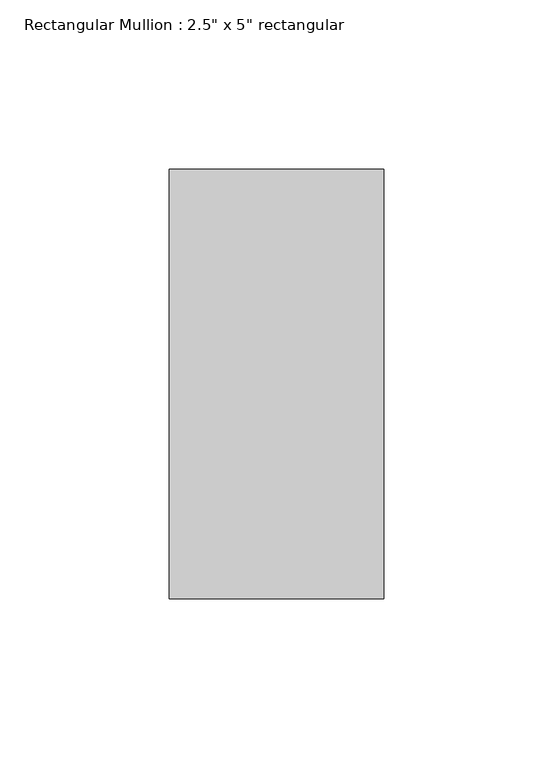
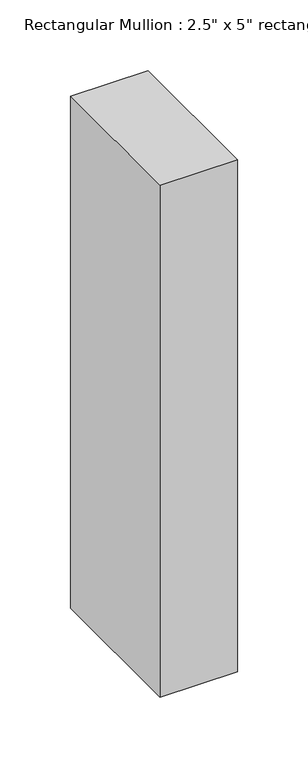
"""IFC4 building model written with IfcOpenShell, lengths in millimetres: member geometry."""

import ifcopenshell
import ifcopenshell.guid

model = None  # the IFC model being written
_history = None  # IfcOwnerHistory: only IFC2X3 demands one
_inside = {}  # id of a spatial element -> (the spatial element, [elements in it])
_under = {}  # id of a project, library or spatial element -> (it, [spatial elements below it])
_declared = {}  # id of a project -> (the project, [libraries it declares])
_typed = {}  # id of a type object -> (the type object, [elements of that type])
_made_of = {}  # id of a material, layer set ... -> (it, [elements and type objects made of it])


def new_model(schema):
    """Start an empty IFC model of exactly this schema.

    Asked for "IFC4X3", IfcOpenShell would pick the latest addendum, in which some entities
    have other attributes; the version numbers below select the first issue.
    IFC2X3 requires an IfcOwnerHistory on every rooted entity: one is made here for all.
    """
    global model, _history
    if schema == "IFC4X3":
        model = ifcopenshell.file(schema_version=(4, 3, 0, 0))
    else:
        model = ifcopenshell.file(schema=schema)
    _inside.clear()
    _under.clear()
    _declared.clear()
    _typed.clear()
    _made_of.clear()
    _history = None
    if model.schema == "IFC2X3":
        org = make("IfcOrganization", Name="unknown")
        user = make(
            "IfcPersonAndOrganization",
            ThePerson=make("IfcPerson", FamilyName="unknown"),
            TheOrganization=org,
        )
        app = make(
            "IfcApplication",
            ApplicationDeveloper=org,
            Version="unknown",
            ApplicationFullName="unknown",
            ApplicationIdentifier="unknown",
        )
        _history = make(
            "IfcOwnerHistory",
            OwningUser=user,
            OwningApplication=app,
            ChangeAction="ADDED",
            CreationDate=0,
        )
    return model


def make(cls, **values):
    """One entity of the class cls with the attributes given. An attribute that is None is left unset."""
    return model.create_entity(
        cls, **{name: value for name, value in values.items() if value is not None}
    )


def rooted(cls, **values):
    """An entity with a GlobalId (a new one), such as an element, a storey or a relation."""
    return make(cls, GlobalId=ifcopenshell.guid.new(), OwnerHistory=_history, **values)


def si_unit(unit_type, name, prefix=None):
    """IfcSIUnit, for example si_unit("LENGTHUNIT", "METRE", prefix="MILLI")."""
    return make("IfcSIUnit", UnitType=unit_type, Prefix=prefix, Name=name)


def assignment(units):
    """IfcUnitAssignment: the units of a project."""
    return None if units is None else make("IfcUnitAssignment", Units=units)


def point(xyz):
    """IfcCartesianPoint."""
    return None if xyz is None else make("IfcCartesianPoint", Coordinates=xyz)


def direction(xyz):
    """IfcDirection."""
    return None if xyz is None else make("IfcDirection", DirectionRatios=xyz)


def frame(location, z_axis=None, x_axis=None):
    """IfcAxis2Placement3D, a coordinate frame: its origin and axes. An axis left out is left unset."""
    return make(
        "IfcAxis2Placement3D",
        Location=point(location),
        Axis=direction(z_axis),
        RefDirection=direction(x_axis),
    )


def origin():
    """The frame at (0, 0, 0) with its axes left unset."""
    return frame((0.0, 0.0, 0.0))


def place(relative_to, where):
    """IfcLocalPlacement: puts the frame where relative to a parent placement (None: the world)."""
    return make(
        "IfcLocalPlacement", PlacementRelTo=relative_to, RelativePlacement=where
    )


def context(
    kind, dimensions, precision=None, world=None, true_north=None, identifier=None
):
    """IfcGeometricRepresentationContext, for example the 3D "Model" context."""
    return make(
        "IfcGeometricRepresentationContext",
        ContextIdentifier=identifier,
        ContextType=kind,
        CoordinateSpaceDimension=dimensions,
        Precision=precision,
        WorldCoordinateSystem=world,
        TrueNorth=true_north,
    )


def project(units=None, contexts=None):
    """IfcProject with its units and contexts."""
    return rooted(
        "IfcProject",
        Name="project",
        RepresentationContexts=contexts,
        UnitsInContext=assignment(units),
    )


def spatial(cls, under=None, at=None, **own):
    """A site, building, storey or space (cls), placed at a placement, below another one or the project."""
    s = rooted(cls, ObjectPlacement=at, **own)
    if under is not None:
        _under.setdefault(under.id(), (under, []))[1].append(s)
    return s


def polyline(points):
    """IfcPolyline through the points."""
    return make("IfcPolyline", Points=[point(p) for p in points])


def outline(outer, holes=None, kind="AREA"):
    """IfcArbitraryClosedProfileDef: a profile drawn as a closed curve; with holes, ...WithVoids."""
    if holes is None:
        return make("IfcArbitraryClosedProfileDef", ProfileType=kind, OuterCurve=outer)
    return make(
        "IfcArbitraryProfileDefWithVoids",
        ProfileType=kind,
        OuterCurve=outer,
        InnerCurves=holes,
    )


def extrude(swept, where, along, depth):
    """IfcExtrudedAreaSolid: the profile swept, set in the frame where, extruded along a direction by depth."""
    return make(
        "IfcExtrudedAreaSolid",
        SweptArea=swept,
        Position=where,
        ExtrudedDirection=direction(along),
        Depth=depth,
    )


def shape(context_of_items, identifier, shape_type, items):
    """IfcShapeRepresentation: the items that make up one representation, for example the "Body"."""
    return make(
        "IfcShapeRepresentation",
        ContextOfItems=context_of_items,
        RepresentationIdentifier=identifier,
        RepresentationType=shape_type,
        Items=items,
    )


def source(mapping_origin, context_of_items, identifier, shape_type, items):
    """IfcRepresentationMap: a shape defined once, which mapped items show again and again."""
    return make(
        "IfcRepresentationMap",
        MappingOrigin=mapping_origin,
        MappedRepresentation=shape(context_of_items, identifier, shape_type, items),
    )


def transform(
    local_origin,
    x_axis=None,
    y_axis=None,
    z_axis=None,
    scale=None,
    scale2=None,
    scale3=None,
    uniform=True,
):
    """IfcCartesianTransformationOperator3D, or its non-uniform kind. x_axis, y_axis, z_axis: its Axis1, 2, 3."""
    if uniform:
        return make(
            "IfcCartesianTransformationOperator3D",
            Axis1=direction(x_axis),
            Axis2=direction(y_axis),
            LocalOrigin=point(local_origin),
            Scale=scale,
            Axis3=direction(z_axis),
        )
    return make(
        "IfcCartesianTransformationOperator3DnonUniform",
        Axis1=direction(x_axis),
        Axis2=direction(y_axis),
        LocalOrigin=point(local_origin),
        Scale=scale,
        Axis3=direction(z_axis),
        Scale2=scale2,
        Scale3=scale3,
    )


def mapped(mapping_source, mapping_target):
    """IfcMappedItem: shows the shape of a source again, moved by a transform."""
    return make(
        "IfcMappedItem", MappingSource=mapping_source, MappingTarget=mapping_target
    )


def made_of(thing, what):
    """Note that an element or type object is made of a material, layer set ...; save() writes the relation."""
    if what is not None:
        _made_of.setdefault(what.id(), (what, []))[1].append(thing)
    return thing


def element(
    cls,
    number,
    at=None,
    inside=None,
    cuts=None,
    type_object=None,
    material=None,
    context=None,
    identifier="Body",
    shape_type=None,
    held_by="IfcProductDefinitionShape",
    body=None,
    shapes=None,
    **own,
):
    """One element of the class cls, such as IfcWall. Its Tag is "e" and its number.

    at: its placement. inside: the storey or other place that contains it. cuts: it is an
    opening in that element (IfcRelVoidsElement). A single representation is given by context,
    identifier, shape_type and body (its items); several are given by shapes. held_by: the class
    of the entity that holds the representations. save() writes the other relations.
    """
    e = rooted(cls, Tag="e%d" % number, ObjectPlacement=at, **own)
    if body is not None:
        shapes = [shape(context, identifier, shape_type, body)]
    if shapes is not None:
        e.Representation = make(held_by, Representations=shapes)
    if inside is not None:
        _inside.setdefault(inside.id(), (inside, []))[1].append(e)
    if cuts is not None:
        rooted(
            "IfcRelVoidsElement", RelatingBuildingElement=cuts, RelatedOpeningElement=e
        )
    if type_object is not None:
        _typed.setdefault(type_object.id(), (type_object, []))[1].append(e)
    return made_of(e, material)


def aggregate(whole, parts):
    """IfcRelAggregates: a whole, such as a stair, and the parts it consists of."""
    return rooted("IfcRelAggregates", RelatingObject=whole, RelatedObjects=parts)


def save(model, path):
    """Write the relations noted so far, then the file.

    IfcRelAggregates (storeys below a building ...), IfcRelContainedInSpatialStructure (elements
    in a storey), IfcRelDefinesByType, IfcRelAssociatesMaterial and IfcRelDeclares: one each for
    every whole, place, type object, material and project.
    """
    for whole, parts in _under.values():
        aggregate(whole, parts)
    for where, things in _inside.values():
        rooted(
            "IfcRelContainedInSpatialStructure",
            RelatedElements=things,
            RelatingStructure=where,
        )
    for kind, things in _typed.values():
        rooted("IfcRelDefinesByType", RelatedObjects=things, RelatingType=kind)
    for what, things in _made_of.values():
        rooted("IfcRelAssociatesMaterial", RelatedObjects=things, RelatingMaterial=what)
    for by, libraries in _declared.values():
        rooted("IfcRelDeclares", RelatingContext=by, RelatedDefinitions=libraries)
    model.write(path)


def member_073d71e8(model_context):
    return source(origin(), model_context, "Body", "SweptSolid", [
        extrude(outline(polyline([(31.75, 63.5), (31.75, -63.5), (-31.75, -63.5), (-31.75, 63.5), (31.75, 63.5)])), frame((0.0, 0.0, -442.7123966), z_axis=(0.0, 0.0, 1.0), x_axis=(1.0, 0.0, 0.0)), (0.0, 0.0, 1.0), 442.7123966),
    ])


if __name__ == "__main__":
    model = new_model("IFC4")
    model_context = context("Model", 3, world=origin())
    ifc_project = project(units=[si_unit("LENGTHUNIT", "METRE", prefix="MILLI")], contexts=[model_context])
    site = spatial("IfcSite", under=ifc_project)
    building = spatial("IfcBuilding", under=site)
    placement = place(None, origin())
    member_shape = member_073d71e8(model_context)
    element("IfcMember", 1, ObjectType="Rectangular Mullion : 2.5\" x 5\" rectangular", at=placement, inside=building, context=model_context, shape_type="MappedRepresentation", body=[
        mapped(member_shape, transform((0.0, 0.0, 0.0), x_axis=(1.0, 0.0, 0.0), y_axis=(0.0, 1.0, 0.0), z_axis=(0.0, 0.0, 1.0))),
    ])
    save(model, "model.ifc")
